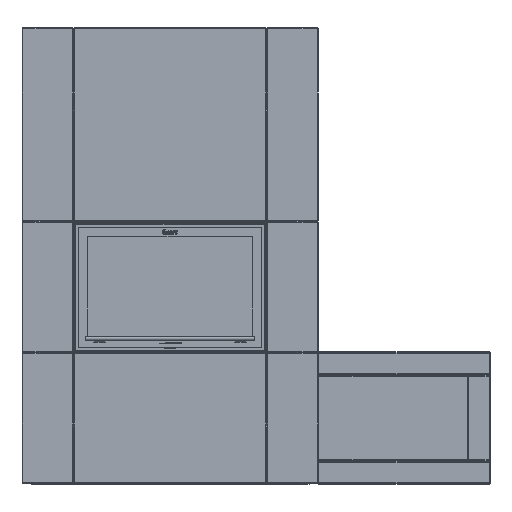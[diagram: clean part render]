
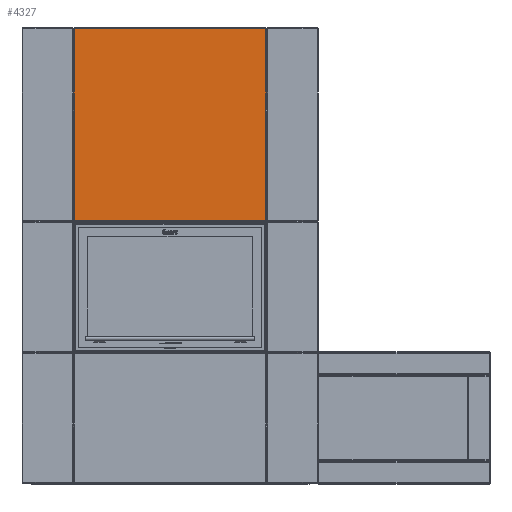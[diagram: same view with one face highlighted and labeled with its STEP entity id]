
A CAD part, front view. The second image highlights one B-rep face of the part: STEP entity #4327.
In plain terms, the highlighted planar face has unit normal (0, -1, 0).
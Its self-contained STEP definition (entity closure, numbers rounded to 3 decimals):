
#4327 = ADVANCED_FACE( '', ( #9105 ), #9106, .T. );
#9105 = FACE_OUTER_BOUND( '', #14550, .T. );
#9106 = PLANE( '', #14551 );
#14550 = EDGE_LOOP( '', ( #29053, #29054, #29055, #29056 ) );
#14551 = AXIS2_PLACEMENT_3D( '', #29057, #29058, #29059 );
#29053 = ORIENTED_EDGE( '', *, *, #36324, .T. );
#29054 = ORIENTED_EDGE( '', *, *, #33683, .T. );
#29055 = ORIENTED_EDGE( '', *, *, #36943, .F. );
#29056 = ORIENTED_EDGE( '', *, *, #37882, .T. );
#29057 = CARTESIAN_POINT( '', ( -343., -620., 1615. ) );
#29058 = DIRECTION( '', ( 0., -1., 0. ) );
#29059 = DIRECTION( '', ( 0., 0., -1. ) );
#33683 = EDGE_CURVE( '', #40058, #40055, #40059, .T. );
#36324 = EDGE_CURVE( '', #44394, #40058, #44395, .T. );
#36943 = EDGE_CURVE( '', #45269, #40055, #45270, .T. );
#37882 = EDGE_CURVE( '', #45269, #44394, #46480, .T. );
#40055 = VERTEX_POINT( '', #49251 );
#40058 = VERTEX_POINT( '', #49255 );
#40059 = LINE( '', #49256, #49257 );
#44394 = VERTEX_POINT( '', #58812 );
#44395 = LINE( '', #58813, #58814 );
#45269 = VERTEX_POINT( '', #60606 );
#45270 = LINE( '', #60607, #60608 );
#46480 = LINE( '', #63416, #63417 );
#49251 = CARTESIAN_POINT( '', ( 340., -620., 1615. ) );
#49255 = CARTESIAN_POINT( '', ( 340., -620., 935. ) );
#49256 = CARTESIAN_POINT( '', ( 340., -620., 1615. ) );
#49257 = VECTOR( '', #66418, 1000. );
#58812 = CARTESIAN_POINT( '', ( -340., -620., 935. ) );
#58813 = CARTESIAN_POINT( '', ( -343., -620., 935. ) );
#58814 = VECTOR( '', #68274, 1000. );
#60606 = CARTESIAN_POINT( '', ( -340., -620., 1615. ) );
#60607 = CARTESIAN_POINT( '', ( -343., -620., 1615. ) );
#60608 = VECTOR( '', #68737, 1000. );
#63416 = CARTESIAN_POINT( '', ( -340., -620., 1615. ) );
#63417 = VECTOR( '', #69305, 1000. );
#66418 = DIRECTION( '', ( 0., 0., 1. ) );
#68274 = DIRECTION( '', ( 1., 0., 0. ) );
#68737 = DIRECTION( '', ( 1., 0., 0. ) );
#69305 = DIRECTION( '', ( 0., 0., -1. ) );
